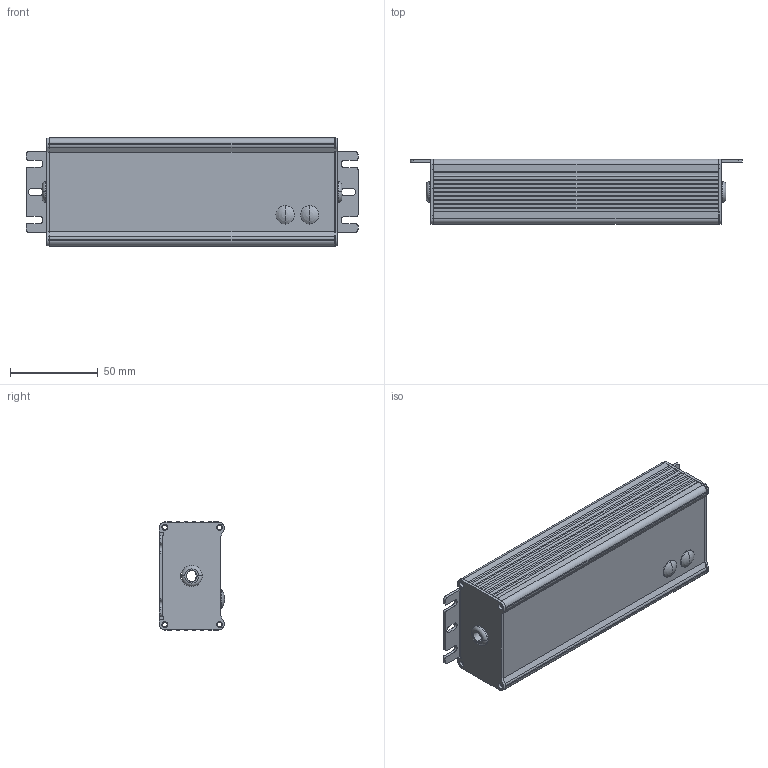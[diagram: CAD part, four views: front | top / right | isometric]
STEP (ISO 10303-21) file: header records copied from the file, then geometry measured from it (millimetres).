
FILE_DESCRIPTION(('Creo Elements/Direct Modeling STEP Export'),'2;1');
FILE_NAME('HVG-65.stp','2014-12-03T 9:19:09',(''),(''),'Creo Elements/Direct Modeling STEP processor for AP214 (Solid Model)','Creo Elements/Direct Modeling 18.1F 24-Jul-2014 (C) Parametric Technology GmbH','');
FILE_SCHEMA(('AUTOMOTIVE_DESIGN { 1 0 10303 214 1 1 1 1 }'));
Length unit declared in the file: millimetre
Products named in the file (11): Vol1.1.1.1; RD0801007.1.1.1.1; M3-10Lê°˜W.1.1.1.1.1.1.1; y.1; ÊU£\; ÊW£\; blcker1; r.1; p2; HVG-65
Assembly tree (16 placements, depth 4):
  HVG-65
    HVG-65
      p2
      r.1  x2
      blcker1  x2
      Vol1.1.1.1  x2
      RD0801007.1.1.1.1  x2
      ÊW£\
      ÊU£\
        M3-10Lê°˜W.1.1.1.1.1.1.1  x3
        y.1
Bounding box: 189 x 37.09 x 61.5 mm (x, y, z)
Volume: 87331.2 mm3; surface area: 120340.1 mm2
Topology: 14 solids, 14 shells, 511 faces, 1351 edges, 887 vertices
Faces by surface type: plane 311, cylinder 156, cone 24, torus 8, bspline 8, sphere 4
Entity records: 11236 total; most frequent: CARTESIAN_POINT 2322, ORIENTED_EDGE 1754, DIRECTION 1609, EDGE_CURVE 877, VECTOR 635, LINE 635, VERTEX_POINT 578, AXIS2_PLACEMENT_3D 487
